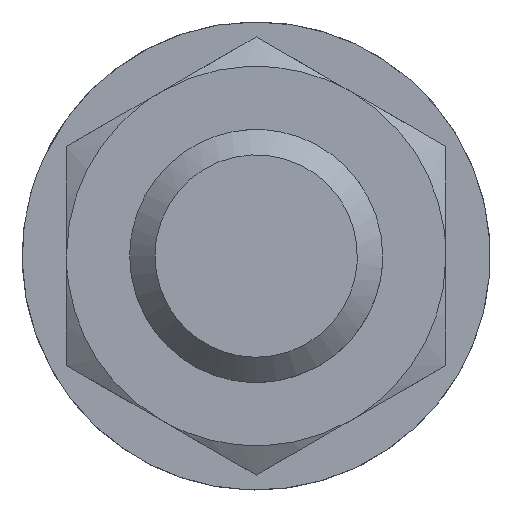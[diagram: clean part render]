
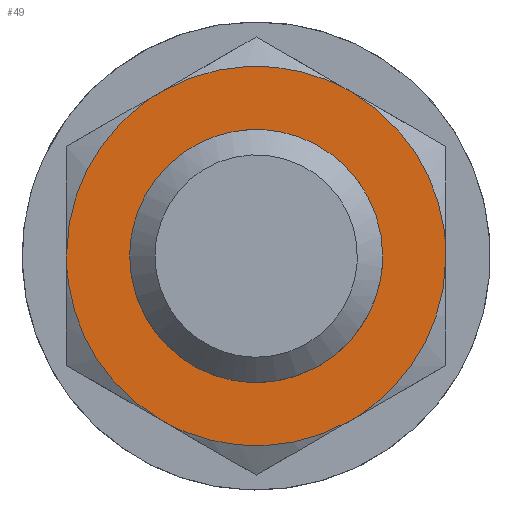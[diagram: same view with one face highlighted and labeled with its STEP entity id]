
A CAD part, left-side view. The second image highlights one B-rep face of the part: STEP entity #49.
In plain terms, the highlighted planar face has unit normal (-1, 0, 0).
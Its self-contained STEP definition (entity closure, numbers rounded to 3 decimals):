
#40=FACE_BOUND('',#138,.T.);
#49=ADVANCED_FACE('',(#92,#40),#658,.T.);
#92=FACE_OUTER_BOUND('',#137,.T.);
#137=EDGE_LOOP('',(#202,#203,#204,#205,#206,#207));
#138=EDGE_LOOP('',(#208,#209));
#202=ORIENTED_EDGE('',*,*,#403,.F.);
#203=ORIENTED_EDGE('',*,*,#405,.F.);
#204=ORIENTED_EDGE('',*,*,#406,.F.);
#205=ORIENTED_EDGE('',*,*,#404,.F.);
#206=ORIENTED_EDGE('',*,*,#402,.F.);
#207=ORIENTED_EDGE('',*,*,#401,.F.);
#208=ORIENTED_EDGE('',*,*,#391,.F.);
#209=ORIENTED_EDGE('',*,*,#389,.F.);
#389=EDGE_CURVE('',#604,#594,#515,.T.);
#391=EDGE_CURVE('',#594,#604,#516,.T.);
#401=EDGE_CURVE('',#598,#599,#524,.T.);
#402=EDGE_CURVE('',#599,#603,#525,.T.);
#403=EDGE_CURVE('',#600,#598,#526,.T.);
#404=EDGE_CURVE('',#603,#602,#527,.T.);
#405=EDGE_CURVE('',#601,#600,#528,.T.);
#406=EDGE_CURVE('',#602,#601,#529,.T.);
#515=(
BOUNDED_CURVE()
B_SPLINE_CURVE(2,(#1161,#1162,#1163,#1164,#1165),.UNSPECIFIED.,.F.,.F.)
B_SPLINE_CURVE_WITH_KNOTS((3,2,3),(31.416,47.125,62.833),
 .UNSPECIFIED.)
CURVE()
GEOMETRIC_REPRESENTATION_ITEM()
RATIONAL_B_SPLINE_CURVE((1.,0.707,1.,0.707,1.))
REPRESENTATION_ITEM('')
);
#516=(
BOUNDED_CURVE()
B_SPLINE_CURVE(2,(#1168,#1169,#1170,#1171,#1172),.UNSPECIFIED.,.F.,.F.)
B_SPLINE_CURVE_WITH_KNOTS((3,2,3),(0.,15.708,31.416),
 .UNSPECIFIED.)
CURVE()
GEOMETRIC_REPRESENTATION_ITEM()
RATIONAL_B_SPLINE_CURVE((1.,0.707,1.,0.707,1.))
REPRESENTATION_ITEM('')
);
#524=(
BOUNDED_CURVE()
B_SPLINE_CURVE(2,(#1210,#1211,#1212),.UNSPECIFIED.,.F.,.F.)
B_SPLINE_CURVE_WITH_KNOTS((3,3),(0.,15.708),.UNSPECIFIED.)
CURVE()
GEOMETRIC_REPRESENTATION_ITEM()
RATIONAL_B_SPLINE_CURVE((1.,0.866,1.))
REPRESENTATION_ITEM('')
);
#525=(
BOUNDED_CURVE()
B_SPLINE_CURVE(2,(#1213,#1214,#1215),.UNSPECIFIED.,.F.,.F.)
B_SPLINE_CURVE_WITH_KNOTS((3,3),(0.,15.708),.UNSPECIFIED.)
CURVE()
GEOMETRIC_REPRESENTATION_ITEM()
RATIONAL_B_SPLINE_CURVE((1.,0.866,1.))
REPRESENTATION_ITEM('')
);
#526=(
BOUNDED_CURVE()
B_SPLINE_CURVE(2,(#1216,#1217,#1218),.UNSPECIFIED.,.F.,.F.)
B_SPLINE_CURVE_WITH_KNOTS((3,3),(0.,15.708),.UNSPECIFIED.)
CURVE()
GEOMETRIC_REPRESENTATION_ITEM()
RATIONAL_B_SPLINE_CURVE((1.,0.866,1.))
REPRESENTATION_ITEM('')
);
#527=(
BOUNDED_CURVE()
B_SPLINE_CURVE(2,(#1219,#1220,#1221),.UNSPECIFIED.,.F.,.F.)
B_SPLINE_CURVE_WITH_KNOTS((3,3),(0.,15.708),.UNSPECIFIED.)
CURVE()
GEOMETRIC_REPRESENTATION_ITEM()
RATIONAL_B_SPLINE_CURVE((1.,0.866,1.))
REPRESENTATION_ITEM('')
);
#528=(
BOUNDED_CURVE()
B_SPLINE_CURVE(2,(#1222,#1223,#1224),.UNSPECIFIED.,.F.,.F.)
B_SPLINE_CURVE_WITH_KNOTS((3,3),(0.,15.708),.UNSPECIFIED.)
CURVE()
GEOMETRIC_REPRESENTATION_ITEM()
RATIONAL_B_SPLINE_CURVE((1.,0.866,1.))
REPRESENTATION_ITEM('')
);
#529=(
BOUNDED_CURVE()
B_SPLINE_CURVE(2,(#1225,#1226,#1227),.UNSPECIFIED.,.F.,.F.)
B_SPLINE_CURVE_WITH_KNOTS((3,3),(0.,15.708),.UNSPECIFIED.)
CURVE()
GEOMETRIC_REPRESENTATION_ITEM()
RATIONAL_B_SPLINE_CURVE((1.,0.866,1.))
REPRESENTATION_ITEM('')
);
#594=VERTEX_POINT('',#1129);
#598=VERTEX_POINT('',#1133);
#599=VERTEX_POINT('',#1134);
#600=VERTEX_POINT('',#1135);
#601=VERTEX_POINT('',#1136);
#602=VERTEX_POINT('',#1137);
#603=VERTEX_POINT('',#1138);
#604=VERTEX_POINT('',#1139);
#658=PLANE('',#772);
#772=AXIS2_PLACEMENT_3D('',#886,#798,$);
#798=DIRECTION('',(-1.,0.,0.));
#886=CARTESIAN_POINT('',(30.333,-18.12,-20.905));
#1129=CARTESIAN_POINT('',(30.333,10.,0.));
#1133=CARTESIAN_POINT('',(30.333,-7.5,-12.99));
#1134=CARTESIAN_POINT('',(30.333,7.5,-12.99));
#1135=CARTESIAN_POINT('',(30.333,-15.,0.));
#1136=CARTESIAN_POINT('',(30.333,-7.5,12.99));
#1137=CARTESIAN_POINT('',(30.333,7.5,12.99));
#1138=CARTESIAN_POINT('',(30.333,15.,0.));
#1139=CARTESIAN_POINT('',(30.333,-10.,0.));
#1161=CARTESIAN_POINT('',(30.333,-10.,0.));
#1162=CARTESIAN_POINT('',(30.333,-10.,10.));
#1163=CARTESIAN_POINT('',(30.333,0.,10.));
#1164=CARTESIAN_POINT('',(30.333,10.,10.));
#1165=CARTESIAN_POINT('',(30.333,10.,0.));
#1168=CARTESIAN_POINT('',(30.333,10.,0.));
#1169=CARTESIAN_POINT('',(30.333,10.,-10.));
#1170=CARTESIAN_POINT('',(30.333,0.,-10.));
#1171=CARTESIAN_POINT('',(30.333,-10.,-10.));
#1172=CARTESIAN_POINT('',(30.333,-10.,0.));
#1210=CARTESIAN_POINT('',(30.333,-7.5,-12.99));
#1211=CARTESIAN_POINT('',(30.333,0.,-17.321));
#1212=CARTESIAN_POINT('',(30.333,7.5,-12.99));
#1213=CARTESIAN_POINT('',(30.333,7.5,-12.99));
#1214=CARTESIAN_POINT('',(30.333,15.,-8.66));
#1215=CARTESIAN_POINT('',(30.333,15.,0.));
#1216=CARTESIAN_POINT('',(30.333,-15.,0.));
#1217=CARTESIAN_POINT('',(30.333,-15.,-8.66));
#1218=CARTESIAN_POINT('',(30.333,-7.5,-12.99));
#1219=CARTESIAN_POINT('',(30.333,15.,0.));
#1220=CARTESIAN_POINT('',(30.333,15.,8.66));
#1221=CARTESIAN_POINT('',(30.333,7.5,12.99));
#1222=CARTESIAN_POINT('',(30.333,-7.5,12.99));
#1223=CARTESIAN_POINT('',(30.333,-15.,8.66));
#1224=CARTESIAN_POINT('',(30.333,-15.,0.));
#1225=CARTESIAN_POINT('',(30.333,7.5,12.99));
#1226=CARTESIAN_POINT('',(30.333,0.,17.321));
#1227=CARTESIAN_POINT('',(30.333,-7.5,12.99));
